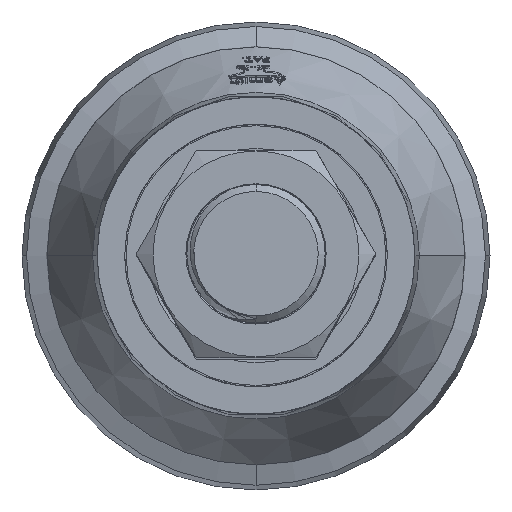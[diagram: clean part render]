
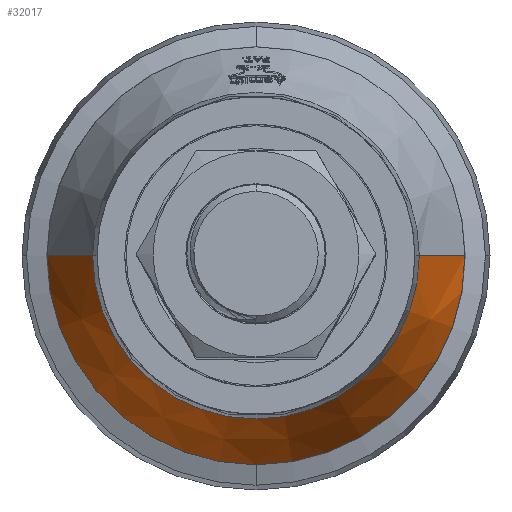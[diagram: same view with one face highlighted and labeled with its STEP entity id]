
A CAD part, top view. The second image highlights one B-rep face of the part: STEP entity #32017.
In plain terms, the highlighted conical face has half-angle 25 degrees and reference radius 23.629 mm.
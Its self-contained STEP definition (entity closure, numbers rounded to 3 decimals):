
#1892 = CARTESIAN_POINT ( 'NONE',  ( 30.24, 0., 9.324 ) ) ;
#2196 = DIRECTION ( 'NONE',  ( 0., 0., 1. ) ) ;
#5828 = DIRECTION ( 'NONE',  ( -0.423, 0., -0.906 ) ) ;
#8693 = CARTESIAN_POINT ( 'NONE',  ( -23.629, 0., 23.5 ) ) ;
#8728 = LINE ( 'NONE', #23787, #31713 ) ;
#10130 = CARTESIAN_POINT ( 'NONE',  ( -30.24, 0., 9.324 ) ) ;
#10492 = EDGE_CURVE ( 'NONE', #11011, #19565, #21301, .T. ) ;
#10722 = AXIS2_PLACEMENT_3D ( 'NONE', #34943, #16949, #37934 ) ;
#10901 = AXIS2_PLACEMENT_3D ( 'NONE', #17699, #11572, #38690 ) ;
#11011 = VERTEX_POINT ( 'NONE', #14918 ) ;
#11572 = DIRECTION ( 'NONE',  ( 0., 0., -1. ) ) ;
#14775 = ORIENTED_EDGE ( 'NONE', *, *, #17250, .F. ) ;
#14918 = CARTESIAN_POINT ( 'NONE',  ( 23.629, 0., 23.5 ) ) ;
#14964 = ORIENTED_EDGE ( 'NONE', *, *, #34180, .F. ) ;
#15186 = EDGE_LOOP ( 'NONE', ( #14775, #35593, #14964, #21544 ) ) ;
#16949 = DIRECTION ( 'NONE',  ( 0., 0., -1. ) ) ;
#17250 = EDGE_CURVE ( 'NONE', #28834, #11011, #25814, .T. ) ;
#17699 = CARTESIAN_POINT ( 'NONE',  ( 0., 0., 23.5 ) ) ;
#19565 = VERTEX_POINT ( 'NONE', #8693 ) ;
#20138 = CARTESIAN_POINT ( 'NONE',  ( 0., 0., 23.5 ) ) ;
#21301 = CIRCLE ( 'NONE', #26201, 23.629 ) ;
#21544 = ORIENTED_EDGE ( 'NONE', *, *, #10492, .F. ) ;
#22051 = VERTEX_POINT ( 'NONE', #10130 ) ;
#22687 = DIRECTION ( 'NONE',  ( -0.423, 0., 0.906 ) ) ;
#23166 = DIRECTION ( 'NONE',  ( -1., 0., 0. ) ) ;
#23787 = CARTESIAN_POINT ( 'NONE',  ( -26.934, 0., 16.412 ) ) ;
#25814 = LINE ( 'NONE', #34660, #31931 ) ;
#26201 = AXIS2_PLACEMENT_3D ( 'NONE', #20138, #2196, #23166 ) ;
#28834 = VERTEX_POINT ( 'NONE', #1892 ) ;
#31187 = CIRCLE ( 'NONE', #10722, 30.24 ) ;
#31713 = VECTOR ( 'NONE', #5828, 1000. ) ;
#31797 = FACE_OUTER_BOUND ( 'NONE', #15186, .T. ) ;
#31931 = VECTOR ( 'NONE', #22687, 1000. ) ;
#32017 = ADVANCED_FACE ( 'NONE', ( #31797 ), #38793, .T. ) ;
#34180 = EDGE_CURVE ( 'NONE', #19565, #22051, #8728, .T. ) ;
#34660 = CARTESIAN_POINT ( 'NONE',  ( 26.934, 0., 16.412 ) ) ;
#34943 = CARTESIAN_POINT ( 'NONE',  ( 0., 0., 9.324 ) ) ;
#35593 = ORIENTED_EDGE ( 'NONE', *, *, #37824, .F. ) ;
#37824 = EDGE_CURVE ( 'NONE', #22051, #28834, #31187, .T. ) ;
#37934 = DIRECTION ( 'NONE',  ( -1., 0., 0. ) ) ;
#38690 = DIRECTION ( 'NONE',  ( -1., 0., 0. ) ) ;
#38793 = CONICAL_SURFACE ( 'NONE', #10901, 23.629, 0.436 ) ;
